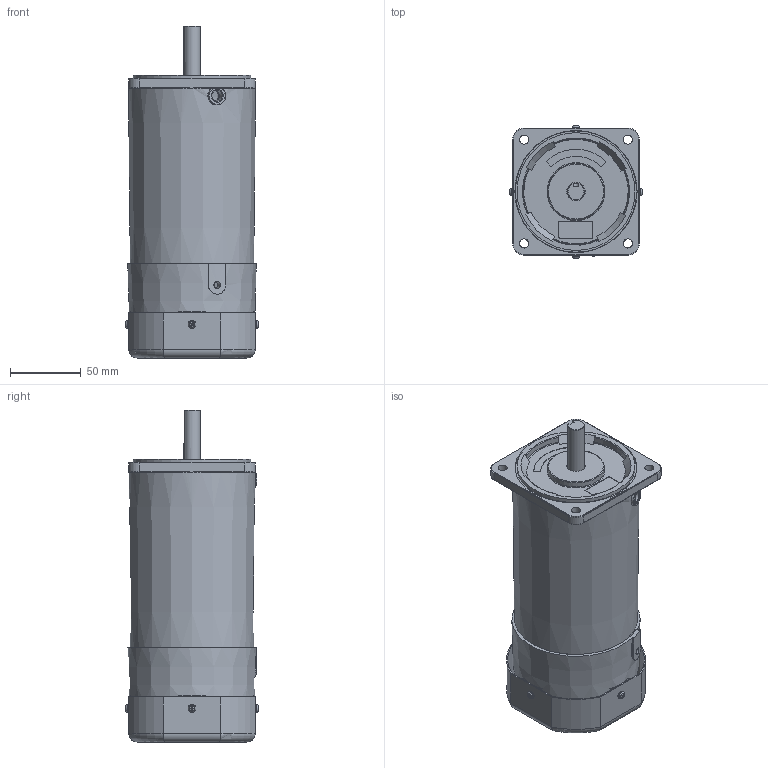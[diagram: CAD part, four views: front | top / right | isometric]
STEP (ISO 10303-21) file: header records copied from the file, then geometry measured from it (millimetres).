
FILE_DESCRIPTION(/* description */ (''),/* implementation_level */ '2;1');
FILE_NAME(/* name */ 'Y:\제품연구개발\4. 개발프로젝트\2. 프로젝트_제품군별\2. STANDARD AC\공유 (이현극)\AC 3D 파일 정리 및 검토\S9I180_-E\S9I180K_-E.stp',/* time_stamp */ '2024-01-03T09:33:12+09:00',/* author */ ('shyi1037'),/* organization */ (''),/* preprocessor_version */ 'ST-DEVELOPER v18.1',/* originating_system */ 'Autodesk Inventor 2022',/* authorisation */ '');
FILE_SCHEMA (('AUTOMOTIVE_DESIGN { 1 0 10303 214 3 1 1 }'));
Length unit declared in the file: millimetre
Products named in the file (1): S9I180K_-E
Bounding box: 94.36 x 94.36 x 235.3 mm (x, y, z)
Volume: 290069.5 mm3; surface area: 188347.7 mm2
Topology: 4 solids, 4 shells, 649 faces, 1686 edges, 1101 vertices
Faces by surface type: plane 257, cylinder 167, cone 87, torus 85, bspline 48, sphere 5
Full cylindrical faces by diameter (mm): 1.5 x12, 2.459 x4, 2.693 x4, 3 x8, 3.5 x4, 5 x5, 6.5 x5, 8 x2, 10 x1, 10.2 x1, 12 x2, 13 x1, 14.9 x1, 15 x1, 19 x2, 26 x1, 28 x1, 29 x1, 34 x1, 40 x1, 44.8 x1, 46 x1, 58.8 x1, 60 x2, 66 x1, 68.4 x1, 70 x1, 80 x1, 83 x1, 83.2 x2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
Entity records: 24753 total; most frequent: CARTESIAN_POINT 8016, ORIENTED_EDGE 3356, DIRECTION 3347, EDGE_CURVE 1678, AXIS2_PLACEMENT_3D 1346, VERTEX_POINT 1101, EDGE_LOOP 775, CIRCLE 712
